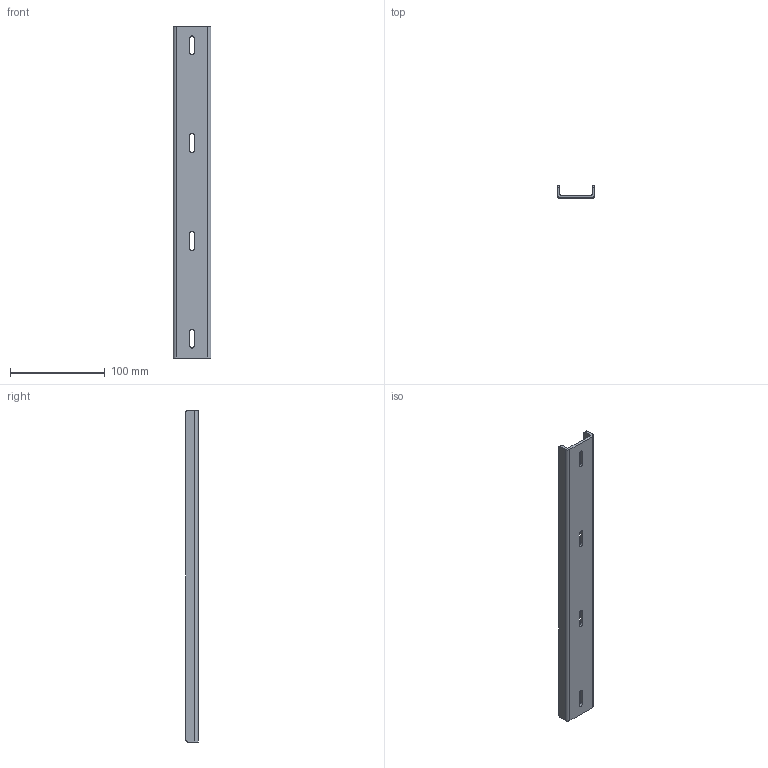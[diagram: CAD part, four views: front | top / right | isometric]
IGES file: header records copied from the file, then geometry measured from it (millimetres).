
Start section: SolidWorks IGES file using analytic representation for surfaces
Bounding box: 40 x 13 x 350 mm (x, y, z)
Surface area: 43109.2 mm2 (no closed solid volume)
Topology: 0 solids, 0 shells, 86 faces, 950 edges, 950 vertices
Faces by surface type: bspline 64, revolution 22
